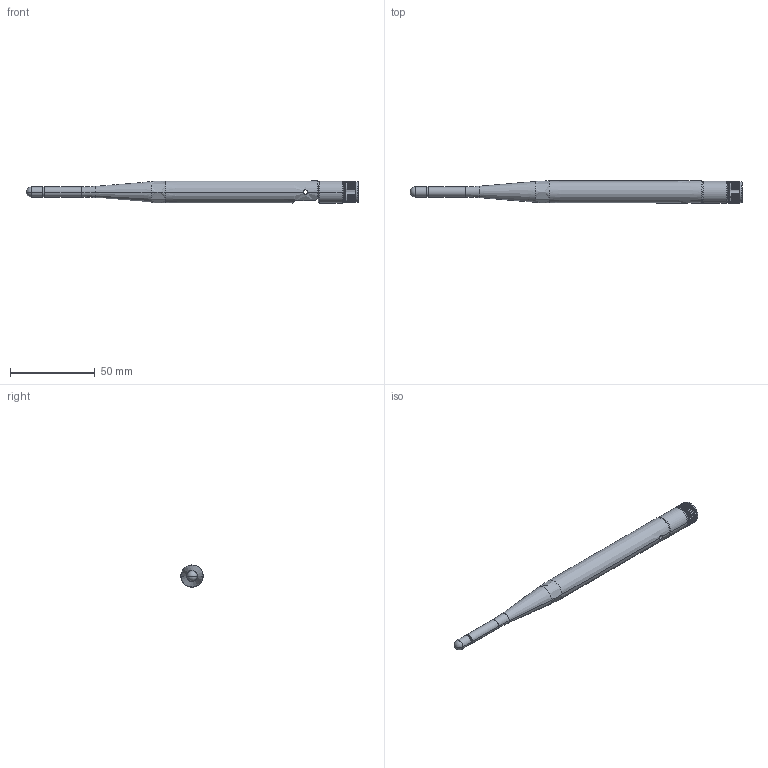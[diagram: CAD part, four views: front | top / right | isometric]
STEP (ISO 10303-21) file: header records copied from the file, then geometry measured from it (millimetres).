
FILE_DESCRIPTION((''),'2;1');
FILE_NAME('X9000984-4GDSMB_ASM','2024-09-17T',('gfichot'),(''),'CREO PARAMETRIC BY PTC INC, 2016130','CREO PARAMETRIC BY PTC INC, 2016130','');
FILE_SCHEMA(('CONFIG_CONTROL_DESIGN'));
Length unit declared in the file: millimetre
Products named in the file (3): X9000984-4GDSMB; CONNECTOR; X9000984-4GDSMB_ASM
Assembly tree (2 placements, depth 2):
  X9000984-4GDSMB_ASM
    X9000984-4GDSMB
    CONNECTOR
Bounding box: 196 x 13.2 x 13.1 mm (x, y, z)
Volume: 19282.3 mm3; surface area: 7868 mm2
Topology: 2 solids, 2 shells, 188 faces, 639 edges, 459 vertices
Faces by surface type: cylinder 143, plane 20, torus 14, cone 5, bspline 4, sphere 2
Entity records: 8123 total; most frequent: CARTESIAN_POINT 3095, ORIENTED_EDGE 1274, DIRECTION 722, EDGE_CURVE 637, VERTEX_POINT 459, B_SPLINE_CURVE_WITH_KNOTS 379, AXIS2_PLACEMENT_3D 275, EDGE_LOOP 200
